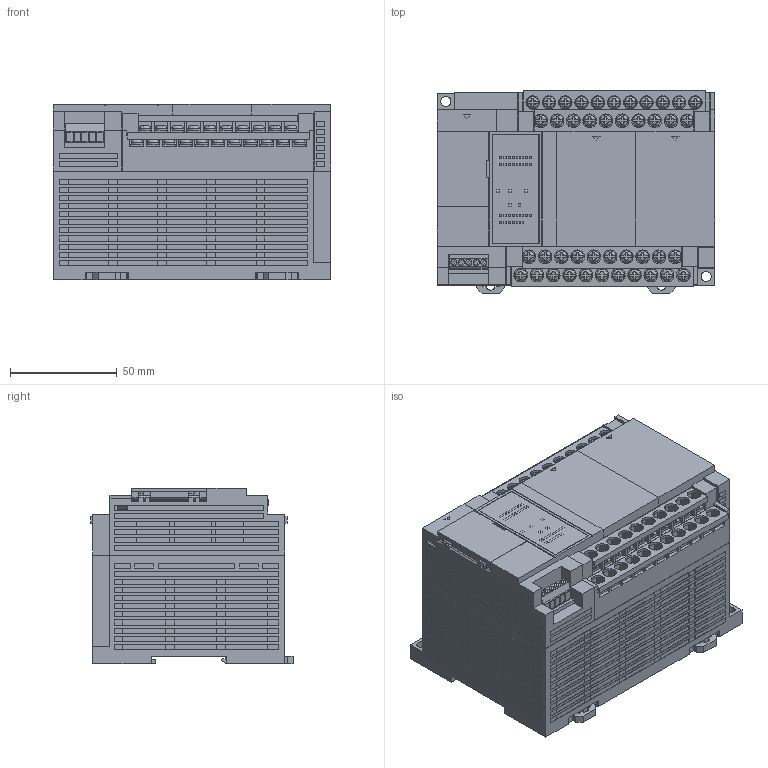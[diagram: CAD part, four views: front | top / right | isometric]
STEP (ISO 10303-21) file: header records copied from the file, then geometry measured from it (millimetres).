
FILE_DESCRIPTION (( 'STEP AP214' ), '1' );
FILE_NAME ('afp-xhc30r.STEP', '2015-07-30T08:42:31', ( 'admin' ), ( '' ), 'SwSTEP 2.0', 'SolidWorks 2010', '' );
FILE_SCHEMA (( 'AUTOMOTIVE_DESIGN' ));
Length unit declared in the file: millimetre
Products named in the file (8): fp-xh_control_cover_??????; fp-xh_fp-xhc30_??????; fp-xh_cassettecover_??????; fp-xh_battery_cover_??????; fp-xh_terminal_cover_??????; fp-xh_terminal_cover_60_in_??????; fp-xh_dinhook_??????; afp-xhc30r
Assembly tree (11 placements, depth 2):
  afp-xhc30r
    fp-xh_terminal_cover_60_in_??????  x2
    fp-xh_dinhook_??????  x2
    fp-xh_terminal_cover_??????  x2
    fp-xh_cassettecover_??????  x2
    fp-xh_battery_cover_??????
    fp-xh_fp-xhc30_??????
    fp-xh_control_cover_??????
Bounding box: 130 x 94.75 x 82 mm (x, y, z)
Volume: 832679.3 mm3; surface area: 119186.7 mm2
Topology: 11 solids, 11 shells, 3582 faces, 9703 edges, 6427 vertices
Faces by surface type: plane 3245, cylinder 253, bspline 84
Entity records: 110856 total; most frequent: CARTESIAN_POINT 23403, ORIENTED_EDGE 18388, DIRECTION 15443, EDGE_CURVE 9194, VECTOR 7925, LINE 7925, VERTEX_POINT 6091, AXIS2_PLACEMENT_3D 3759
